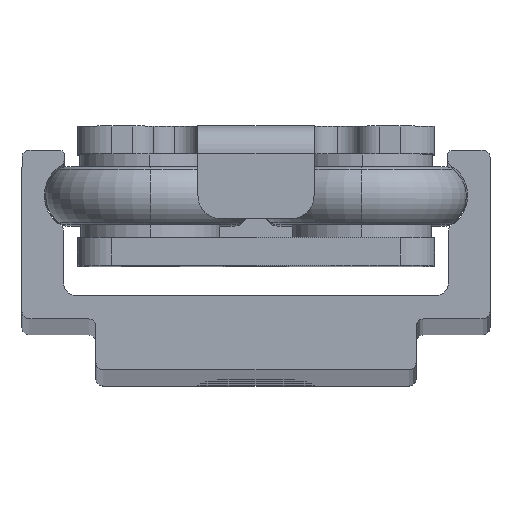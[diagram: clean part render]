
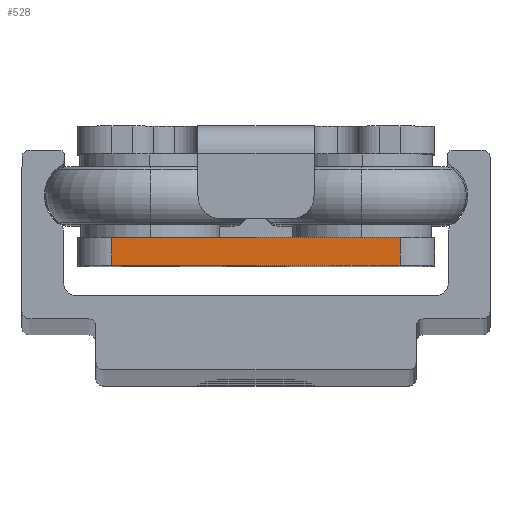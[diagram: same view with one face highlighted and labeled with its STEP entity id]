
A CAD part, top view. The second image highlights one B-rep face of the part: STEP entity #528.
In plain terms, the highlighted planar face has unit normal (0, 0, 1).
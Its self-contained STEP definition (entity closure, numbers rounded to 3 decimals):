
#315 = DIRECTION ( 'NONE',  ( -1., 0., 0. ) ) ;
#470 = EDGE_LOOP ( 'NONE', ( #9580, #5731, #5260, #5871 ) ) ;
#509 = CARTESIAN_POINT ( 'NONE',  ( -7.7, -4.8, 20. ) ) ;
#528 = ADVANCED_FACE ( 'NONE', ( #4531 ), #2157, .F. ) ;
#807 = CARTESIAN_POINT ( 'NONE',  ( -6.2, -6., 20. ) ) ;
#1585 = EDGE_CURVE ( 'NONE', #8693, #3919, #3631, .T. ) ;
#1765 = LINE ( 'NONE', #807, #4259 ) ;
#2157 = PLANE ( 'NONE',  #13032 ) ;
#2604 = CARTESIAN_POINT ( 'NONE',  ( 6.2, -4.8, 20. ) ) ;
#3205 = DIRECTION ( 'NONE',  ( 0., 0., -1. ) ) ;
#3631 = LINE ( 'NONE', #9819, #10152 ) ;
#3684 = DIRECTION ( 'NONE',  ( -1., 0., 0. ) ) ;
#3762 = CARTESIAN_POINT ( 'NONE',  ( 6.2, -6., 20. ) ) ;
#3919 = VERTEX_POINT ( 'NONE', #4979 ) ;
#4259 = VECTOR ( 'NONE', #5024, 1000. ) ;
#4320 = CARTESIAN_POINT ( 'NONE',  ( -7.7, -6., 20. ) ) ;
#4531 = FACE_OUTER_BOUND ( 'NONE', #470, .T. ) ;
#4979 = CARTESIAN_POINT ( 'NONE',  ( -6.2, -6., 20. ) ) ;
#5024 = DIRECTION ( 'NONE',  ( 0., -1., 0. ) ) ;
#5260 = ORIENTED_EDGE ( 'NONE', *, *, #6160, .T. ) ;
#5731 = ORIENTED_EDGE ( 'NONE', *, *, #5741, .T. ) ;
#5741 = EDGE_CURVE ( 'NONE', #8693, #8181, #12391, .T. ) ;
#5871 = ORIENTED_EDGE ( 'NONE', *, *, #11546, .T. ) ;
#6160 = EDGE_CURVE ( 'NONE', #8181, #8001, #13282, .T. ) ;
#8001 = VERTEX_POINT ( 'NONE', #9847 ) ;
#8181 = VERTEX_POINT ( 'NONE', #2604 ) ;
#8693 = VERTEX_POINT ( 'NONE', #3762 ) ;
#9580 = ORIENTED_EDGE ( 'NONE', *, *, #1585, .F. ) ;
#9599 = VECTOR ( 'NONE', #3684, 1000. ) ;
#9819 = CARTESIAN_POINT ( 'NONE',  ( -7.7, -6., 20. ) ) ;
#9847 = CARTESIAN_POINT ( 'NONE',  ( -6.2, -4.8, 20. ) ) ;
#10152 = VECTOR ( 'NONE', #315, 1000. ) ;
#10468 = VECTOR ( 'NONE', #11127, 1000. ) ;
#10850 = DIRECTION ( 'NONE',  ( -1., 0., 0. ) ) ;
#11127 = DIRECTION ( 'NONE',  ( 0., 1., 0. ) ) ;
#11191 = CARTESIAN_POINT ( 'NONE',  ( 6.2, -6., 20. ) ) ;
#11546 = EDGE_CURVE ( 'NONE', #8001, #3919, #1765, .T. ) ;
#12391 = LINE ( 'NONE', #11191, #10468 ) ;
#13032 = AXIS2_PLACEMENT_3D ( 'NONE', #4320, #3205, #10850 ) ;
#13282 = LINE ( 'NONE', #509, #9599 ) ;
